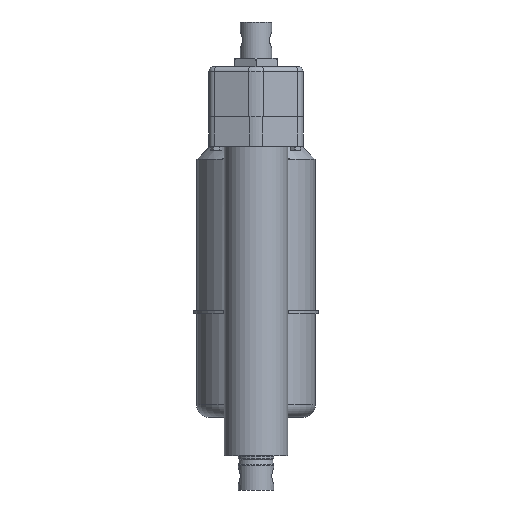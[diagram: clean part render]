
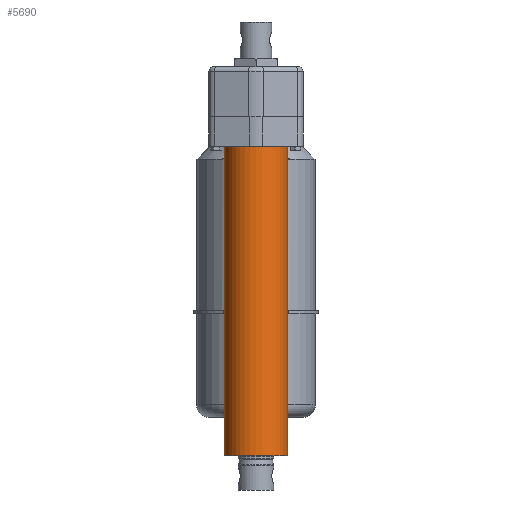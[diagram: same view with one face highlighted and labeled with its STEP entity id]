
A CAD part, front view. The second image highlights one B-rep face of the part: STEP entity #5690.
In plain terms, the highlighted cylindrical face has radius 25.65 mm (diameter 51.3 mm), a full revolution.
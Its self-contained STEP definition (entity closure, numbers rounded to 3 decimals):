
#10 = EDGE_CURVE ( 'NONE', #4410, #4410, #1129, .T. ) ;
#19 = EDGE_CURVE ( 'NONE', #4428, #4428, #1138, .T. ) ;
#62 = AXIS2_PLACEMENT_3D ( 'NONE', #1729, #1735, #1736 ) ;
#69 = AXIS2_PLACEMENT_3D ( 'NONE', #1754, #1761, #1762 ) ;
#246 = AXIS2_PLACEMENT_3D ( 'NONE', #3602, #3603, #3595 ) ;
#1041 = ORIENTED_EDGE ( 'NONE', *, *, #19, .F. ) ;
#1042 = ORIENTED_EDGE ( 'NONE', *, *, #10, .F. ) ;
#1129 = CIRCLE ( 'NONE', #62, 25.65 ) ;
#1138 = CIRCLE ( 'NONE', #69, 25.65 ) ;
#1563 = FACE_OUTER_BOUND ( 'NONE', #5886, .T. ) ;
#1566 = FACE_OUTER_BOUND ( 'NONE', #5862, .T. ) ;
#1567 = CYLINDRICAL_SURFACE ( 'NONE', #246, 25.65 ) ;
#1729 = CARTESIAN_POINT ( 'NONE',  ( 0., 0., 0. ) ) ;
#1735 = DIRECTION ( 'NONE',  ( 0., 0., -1. ) ) ;
#1736 = DIRECTION ( 'NONE',  ( 1., 0., 0. ) ) ;
#1754 = CARTESIAN_POINT ( 'NONE',  ( 0., 0., 250.5 ) ) ;
#1761 = DIRECTION ( 'NONE',  ( 0., 0., 1. ) ) ;
#1762 = DIRECTION ( 'NONE',  ( 1., 0., 0. ) ) ;
#3595 = DIRECTION ( 'NONE',  ( 1., 0., 0. ) ) ;
#3602 = CARTESIAN_POINT ( 'NONE',  ( 0., 0., -72.549 ) ) ;
#3603 = DIRECTION ( 'NONE',  ( 0., 0., 1. ) ) ;
#4410 = VERTEX_POINT ( 'NONE', #4415 ) ;
#4415 = CARTESIAN_POINT ( 'NONE',  ( 25.65, 0., 0. ) ) ;
#4428 = VERTEX_POINT ( 'NONE', #4429 ) ;
#4429 = CARTESIAN_POINT ( 'NONE',  ( 25.65, 0., 250.5 ) ) ;
#5690 = ADVANCED_FACE ( 'NONE', ( #1566, #1563 ), #1567, .T. ) ;
#5862 = EDGE_LOOP ( 'NONE', ( #1042 ) ) ;
#5886 = EDGE_LOOP ( 'NONE', ( #1041 ) ) ;
